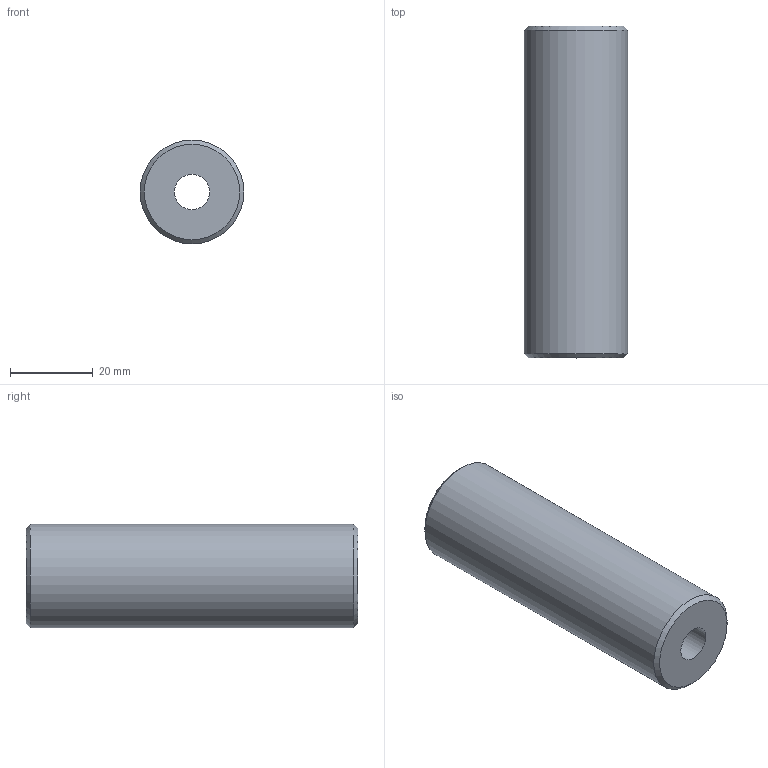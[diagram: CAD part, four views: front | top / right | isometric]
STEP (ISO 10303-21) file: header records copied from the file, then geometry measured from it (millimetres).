
FILE_DESCRIPTION(/* description */ ('crank handle3'),/* implementation_level */ '2;1');
FILE_NAME(/* name */ 'C:\Users\Apardo\Documents\Proyectos\Dietrich\Proyecto 1\PLATE ROLLING MACHINE\STEP\2.3 crank handle3.stp',/* time_stamp */ '2020-11-03T20:42:23-04:00',/* author */ ('Apardo'),/* organization */ ('23'),/* preprocessor_version */ 'ST-DEVELOPER v18',/* originating_system */ 'Autodesk Inventor 2020',/* authorisation */ '');
FILE_SCHEMA (('AUTOMOTIVE_DESIGN { 1 0 10303 214 3 1 1 }'));
Length unit declared in the file: millimetre
Products named in the file (1): crank handle3
Bounding box: 25 x 80 x 25 mm (x, y, z)
Volume: 33098.8 mm3; surface area: 9469.6 mm2
Topology: 1 solids, 1 shells, 8 faces, 19 edges, 14 vertices
Faces by surface type: cylinder 3, plane 3, cone 2
Full cylindrical faces by diameter (mm): 8.5 x1, 14 x1, 25 x1
Entity records: 294 total; most frequent: DIRECTION 51, CARTESIAN_POINT 42, ORIENTED_EDGE 38, AXIS2_PLACEMENT_3D 23, EDGE_CURVE 19, CIRCLE 14, VERTEX_POINT 14, EDGE_LOOP 11
